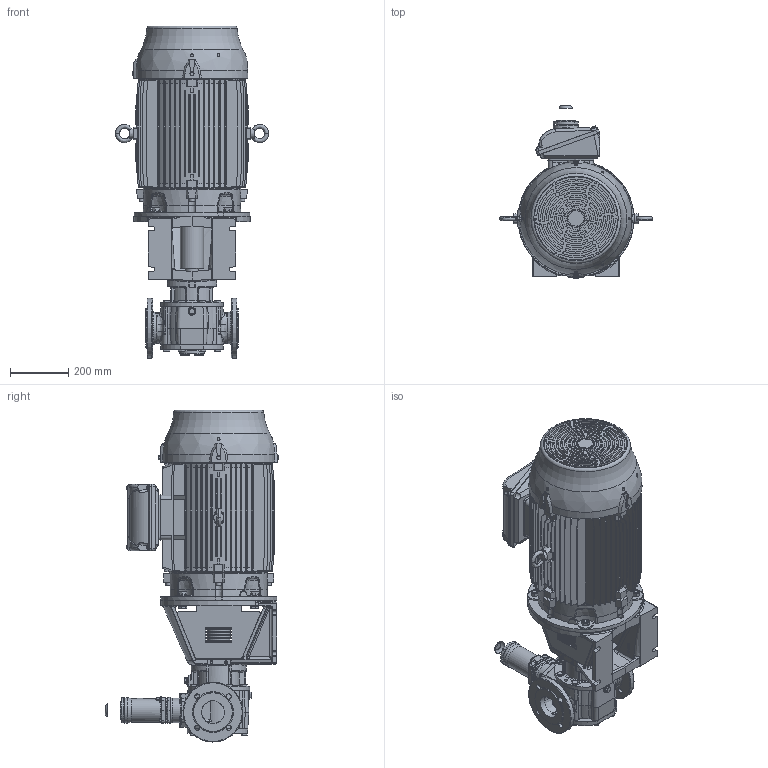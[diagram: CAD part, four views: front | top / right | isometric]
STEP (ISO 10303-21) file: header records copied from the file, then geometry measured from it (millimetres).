
FILE_DESCRIPTION(/* description */ (''),/* implementation_level */ '2;1');
FILE_NAME(/* name */ 'C:\V\JPP\Designs\GEAR PUMPS\PRODUCT ENGINEERING\EUROPE\TG BLOC\TG BLOC_58-80_R3_O_RV1-_200L-STEP.stp',/* time_stamp */ '2021-03-19T11:49:07+01:00',/* author */ ('A77THR'),/* organization */ (''),/* preprocessor_version */ 'ST-DEVELOPER v18.1',/* originating_system */ 'Autodesk Inventor 2020',/* authorisation */ '');
FILE_SCHEMA (('AUTOMOTIVE_DESIGN { 1 0 10303 214 3 1 1 }'));
Length unit declared in the file: millimetre
Products named in the file (1): TG BLOC_58-80_R3_O_RV1-_200L
Bounding box: 527.98 x 597.54 x 1144.26 mm (x, y, z)
Volume: 82473112.3 mm3; surface area: 3457912.9 mm2
Topology: 1 solids, 1 shells, 4703 faces, 12413 edges, 7912 vertices
Faces by surface type: plane 1904, cylinder 1172, bspline 858, cone 593, torus 128, sphere 48
Full cylindrical faces by diameter (mm): 4 x1, 4.5 x4, 4.917 x4, 5.459 x4, 6 x4, 6.647 x1, 6.8 x2, 7 x4, 7.323 x18, 7.444 x3, 8 x17, 8.7 x4, 9 x18, 10 x8, 10.106 x7, 10.2 x2, 11.053 x4, 11.4 x18, 11.445 x2, 11.6 x3, 12 x4, 13 x1, 13.157 x2, 13.2 x2, 14 x8, 15.011 x2, 17.2 x20, 18 x15, 19 x6, 20.955 x1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
Entity records: 196626 total; most frequent: CARTESIAN_POINT 82165, ORIENTED_EDGE 24644, DIRECTION 21223, EDGE_CURVE 12322, AXIS2_PLACEMENT_3D 8228, VERTEX_POINT 7904, EDGE_LOOP 5126, LINE 4767
